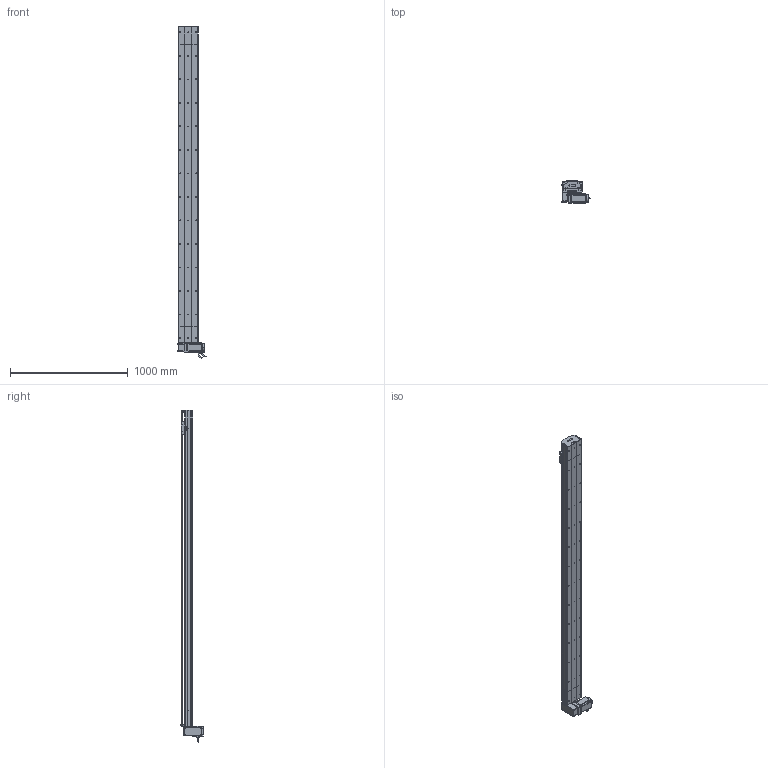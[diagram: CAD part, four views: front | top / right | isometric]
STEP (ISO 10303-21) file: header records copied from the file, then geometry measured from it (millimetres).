
FILE_DESCRIPTION (( 'STEP AP214' ), '1' );
FILE_NAME ('D17 TBN RU S2400.STEP', '2010-06-30T11:49:39', ( 'Christophe Gaillard' ), ( 'SGA' ), 'SwSTEP 2.0', 'SolidWorks 2010', '' );
FILE_SCHEMA (( 'AUTOMOTIVE_DESIGN' ));
Length unit declared in the file: millimetre
Products named in the file (40): plaque de  bout tail D17B_Default; poulie tail_Default; Moteur motionking 90BLDC125A-640; codeur 90BLDC125-640; Conecteur2_Default; D17 TBN RU S2400; course 2400 D17B_Default; Couroie+ rail D17 Course 2400 ; corp D17B 2400_Default; Renvoi RU_Default; tete d''axe poulie D17B; corpl tail D17B_Default; chariot D17 TBN; corps 90BLDC125A-640; vis M5 L8 90°_Default; vis M5 L25_Default; vis M5 L12_Default; avant 90BLDC125A-640; Tail D17B_Default; Chariot D17 TBN; guide D17; couroie head D17_Default; poulie head_Default; Couroie tail D17B_Default; Head RU D17B_Default; corpl head D17 _Default; couvercle D17B head_Default; plaque de  bout head D17B RU_Default; cache D17_Default; Arbre+rail head D17B; Vis M5 L16-2_Default; couvercle D17B course L2400_Default; vis M5 L70_Default; Plaque racord D17_Default; vis M5 L16_Default; cache arbre D17_Default; Conecteur_Default; Rail D17B; couvercle D17B_Default; vis M5 L5_Default
Assembly tree (66 placements, depth 4):
  D17 TBN RU S2400
    course 2400 D17B_Default
      corp D17B 2400_Default
      Couroie+ rail D17 Course 2400 
      couvercle D17B course L2400_Default
    Head RU D17B_Default
      corpl head D17 _Default
      Moteur motionking 90BLDC125A-640
        avant 90BLDC125A-640
        corps 90BLDC125A-640
        Conecteur2_Default
        Conecteur_Default
        codeur 90BLDC125-640
      vis M5 L12_Default  x8
      vis M5 L16_Default  x2
      cache D17_Default  x2
      couvercle D17B head_Default
      Renvoi RU_Default
      vis M5 L5_Default  x4
      cache arbre D17_Default
      plaque de  bout head D17B RU_Default
      Arbre+rail head D17B
      vis M5 L70_Default  x4
      Plaque racord D17_Default
      vis M5 L25_Default  x2
      Vis M5 L16-2_Default  x4
      couroie head D17_Default
      poulie head_Default
    Tail D17B_Default
      plaque de  bout tail D17B_Default
      vis M5 L25_Default  x2
      vis M5 L8 90°_Default  x2
      Couroie tail D17B_Default
      corpl tail D17B_Default
      vis M5 L12_Default  x4
      tete d''axe poulie D17B
      couvercle D17B_Default
      poulie tail_Default
      Rail D17B
    chariot D17 TBN
      Chariot D17 TBN
      guide D17  x2
Bounding box: 245.2 x 188.65 x 2823.95 mm (x, y, z)
Volume: 16247017.9 mm3; surface area: 4716217.1 mm2
Topology: 89 solids, 89 shells, 2615 faces, 6693 edges, 4314 vertices
Faces by surface type: plane 1533, cylinder 785, bspline 136, cone 80, torus 77, sphere 4
Entity records: 84899 total; most frequent: CARTESIAN_POINT 25251, ORIENTED_EDGE 10558, DIRECTION 9972, EDGE_CURVE 5279, LINE 3474, VECTOR 3474, VERTEX_POINT 3458, AXIS2_PLACEMENT_3D 3249
